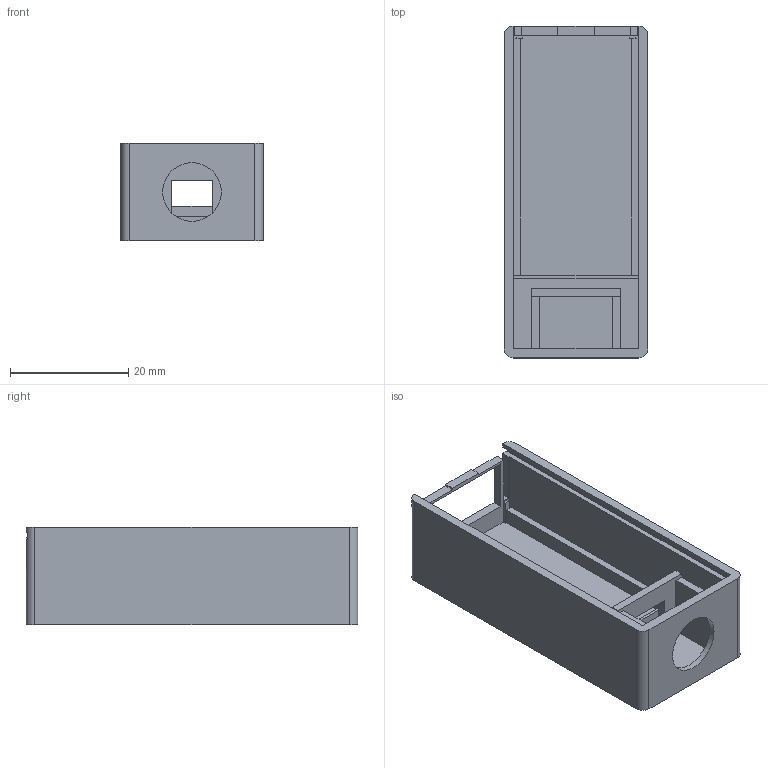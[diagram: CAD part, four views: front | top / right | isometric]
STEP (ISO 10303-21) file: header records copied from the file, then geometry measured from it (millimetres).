
FILE_DESCRIPTION(('Open CASCADE Model'),'2;1');
FILE_NAME('Open CASCADE Shape Model','2026-11-04T10:48:33',('Author'),( 'Open CASCADE'),'Open CASCADE STEP processor 7.9','Open CASCADE 7.9' ,'Unknown');
FILE_SCHEMA(('AUTOMOTIVE_DESIGN { 1 0 10303 214 1 1 1 1 }'));
Length unit declared in the file: millimetre
Products named in the file (1): Open CASCADE STEP translator 7.9 4
Bounding box: 24.2 x 56.1 x 16.4 mm (x, y, z)
Volume: 6035.3 mm3; surface area: 8145.9 mm2
Topology: 1 solids, 1 shells, 77 faces, 223 edges, 148 vertices
Faces by surface type: plane 72, cylinder 5
Full cylindrical faces by diameter (mm): 9.9 x1
Entity records: 5434 total; most frequent: CARTESIAN_POINT 931, DIRECTION 833, LINE 641, VECTOR 641, ORIENTED_EDGE 446, PCURVE 446, DEFINITIONAL_REPRESENTATION 446, EDGE_CURVE 223
